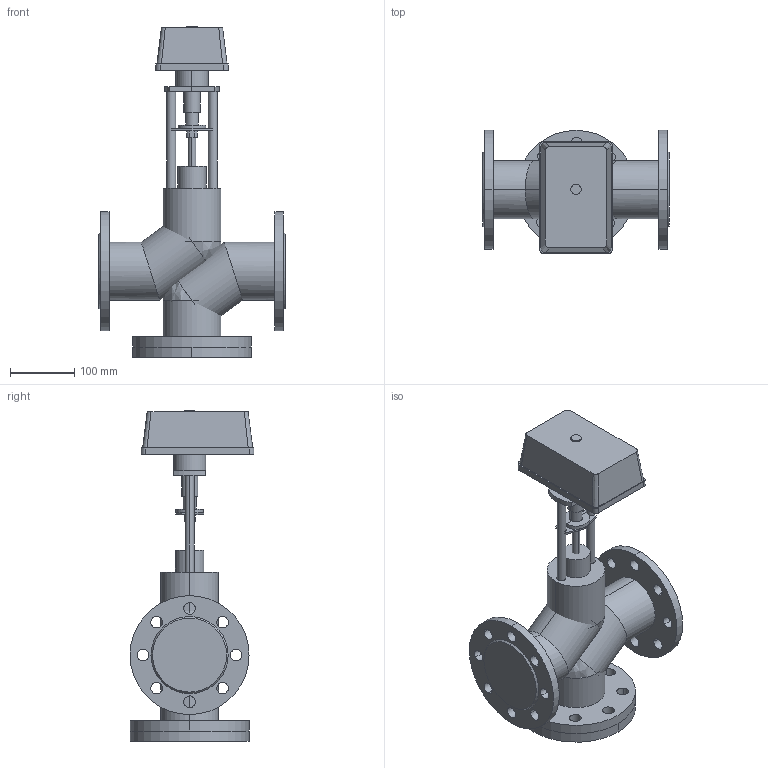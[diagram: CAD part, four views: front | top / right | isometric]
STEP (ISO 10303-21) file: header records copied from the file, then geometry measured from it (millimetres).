
FILE_DESCRIPTION(/* description */ (''),/* implementation_level */ '2;1');
FILE_NAME(/* name */ 'ТРК DN65 PN 1.6 МПа МИЭП-1 2700',/* time_stamp */ '2026-07-14T23:29:43+03:00',/* author */ (''),/* organization */ (''),/* preprocessor_version */ 'ST-DEVELOPER v20',/* originating_system */ '',/* authorisation */ '');
FILE_SCHEMA (('AP242_MANAGED_MODEL_BASED_3D_ENGINEERING_MIM_LF { 1 0 10303 442 1 1 4 }'));
Length unit declared in the file: millimetre
Products named in the file (14): TopLevelAssembly; Выдавливание; Модификатор; Модификатор_1; Выдавливание_
1; Выдавливание_
2; Вращение; Выдавливание_
3; Выдавливание_
4; 2700; Переход; Объемная геометрия 
присоединена; Полый Выдавливание; Объемная геометрия 
присоединена_1
Assembly tree (13 placements, depth 2):
  TopLevelAssembly
    Выдавливание
    Модификатор
    Модификатор_1
    Выдавливание_
1
    Выдавливание_
2
    Вращение
    Выдавливание_
3
    Выдавливание_
4
    2700
    Переход
    Объемная геометрия 
присоединена
    Полый Выдавливание
    Объемная геометрия 
присоединена_1
Bounding box: 290 x 192.5 x 514 mm (x, y, z)
Volume: 6250523.8 mm3; surface area: 665879.8 mm2
Topology: 23 solids, 23 shells, 195 faces, 429 edges, 274 vertices
Faces by surface type: cylinder 104, plane 79, bspline 8, cone 4
Entity records: 6136 total; most frequent: CARTESIAN_POINT 1105, DIRECTION 1077, ORIENTED_EDGE 842, AXIS2_PLACEMENT_3D 442, EDGE_CURVE 421, VERTEX_POINT 274, EDGE_LOOP 249, CIRCLE 220
